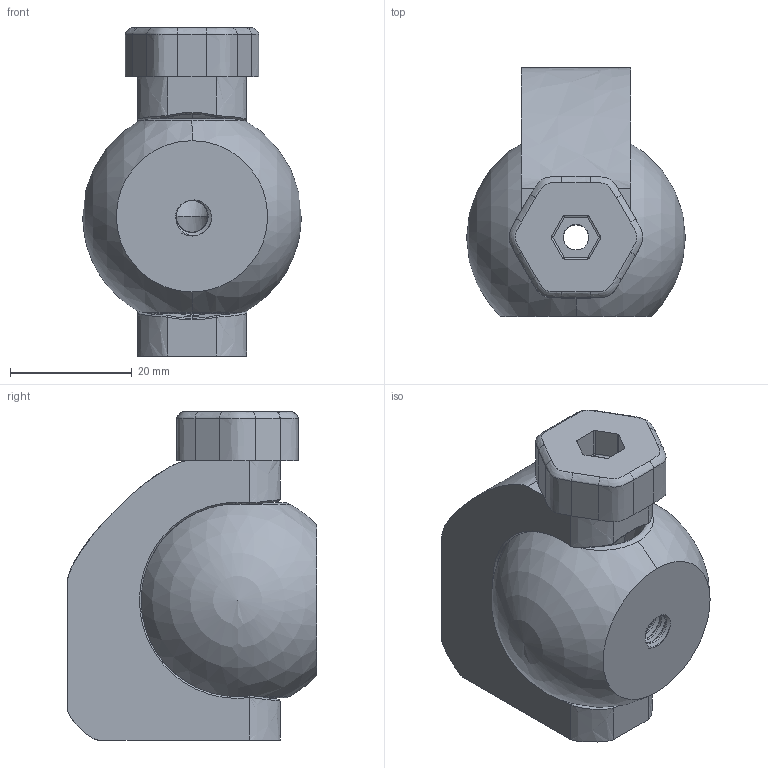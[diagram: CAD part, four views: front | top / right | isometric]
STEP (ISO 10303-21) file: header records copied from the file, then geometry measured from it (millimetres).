
FILE_DESCRIPTION (( 'STEP AP214' ), '1' );
FILE_NAME ('Phone Ballhead v1-0.STEP', '2015-12-12T17:58:10', ( '' ), ( '' ), 'SwSTEP 2.0', 'SolidWorks 2015', '' );
FILE_SCHEMA (( 'AUTOMOTIVE_DESIGN' ));
Length unit declared in the file: millimetre
Products named in the file (1): Phone Ballhead v1-0
Bounding box: 36 x 41 x 54 mm (x, y, z)
Volume: 34491.6 mm3; surface area: 11783.6 mm2
Topology: 3 solids, 3 shells, 210 faces, 583 edges, 369 vertices
Faces by surface type: cylinder 85, bspline 78, plane 32, sphere 11, cone 4
Entity records: 52579 total; most frequent: CARTESIAN_POINT 48421, ORIENTED_EDGE 1150, EDGE_CURVE 575, DIRECTION 507, VERTEX_POINT 367, EDGE_LOOP 218, B_SPLINE_CURVE_WITH_KNOTS 218, FACE_OUTER_BOUND 210
